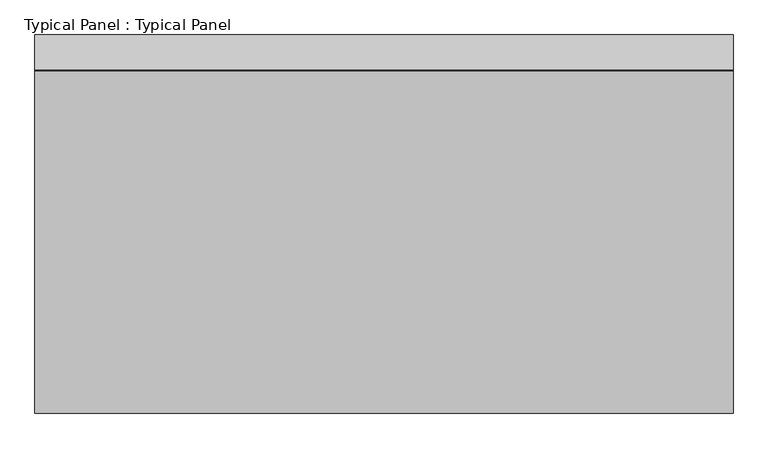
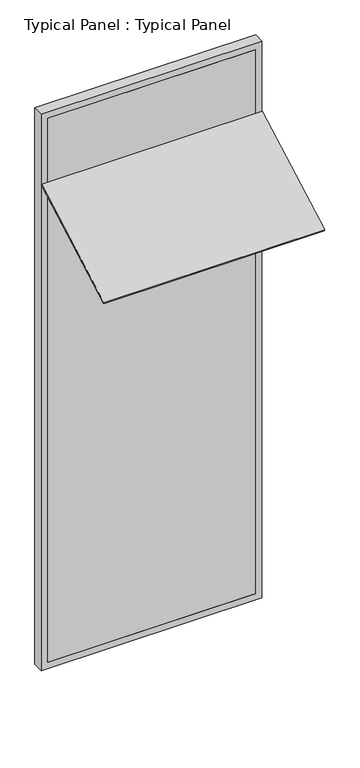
"""IFC4 building model written with IfcOpenShell, lengths in millimetres: plate geometry, Typical Panel : Typical Panel."""

import ifcopenshell
import ifcopenshell.guid

model = None  # the IFC model being written
_history = None  # IfcOwnerHistory: only IFC2X3 demands one
_inside = {}  # id of a spatial element -> (the spatial element, [elements in it])
_under = {}  # id of a project, library or spatial element -> (it, [spatial elements below it])
_declared = {}  # id of a project -> (the project, [libraries it declares])
_typed = {}  # id of a type object -> (the type object, [elements of that type])
_made_of = {}  # id of a material, layer set ... -> (it, [elements and type objects made of it])


def new_model(schema):
    """Start an empty IFC model of exactly this schema.

    Asked for "IFC4X3", IfcOpenShell would pick the latest addendum, in which some entities
    have other attributes; the version numbers below select the first issue.
    IFC2X3 requires an IfcOwnerHistory on every rooted entity: one is made here for all.
    """
    global model, _history
    if schema == "IFC4X3":
        model = ifcopenshell.file(schema_version=(4, 3, 0, 0))
    else:
        model = ifcopenshell.file(schema=schema)
    _inside.clear()
    _under.clear()
    _declared.clear()
    _typed.clear()
    _made_of.clear()
    _history = None
    if model.schema == "IFC2X3":
        org = make("IfcOrganization", Name="unknown")
        user = make(
            "IfcPersonAndOrganization",
            ThePerson=make("IfcPerson", FamilyName="unknown"),
            TheOrganization=org,
        )
        app = make(
            "IfcApplication",
            ApplicationDeveloper=org,
            Version="unknown",
            ApplicationFullName="unknown",
            ApplicationIdentifier="unknown",
        )
        _history = make(
            "IfcOwnerHistory",
            OwningUser=user,
            OwningApplication=app,
            ChangeAction="ADDED",
            CreationDate=0,
        )
    return model


def make(cls, **values):
    """One entity of the class cls with the attributes given. An attribute that is None is left unset."""
    return model.create_entity(
        cls, **{name: value for name, value in values.items() if value is not None}
    )


def rooted(cls, **values):
    """An entity with a GlobalId (a new one), such as an element, a storey or a relation."""
    return make(cls, GlobalId=ifcopenshell.guid.new(), OwnerHistory=_history, **values)


def si_unit(unit_type, name, prefix=None):
    """IfcSIUnit, for example si_unit("LENGTHUNIT", "METRE", prefix="MILLI")."""
    return make("IfcSIUnit", UnitType=unit_type, Prefix=prefix, Name=name)


def assignment(units):
    """IfcUnitAssignment: the units of a project."""
    return None if units is None else make("IfcUnitAssignment", Units=units)


def point(xyz):
    """IfcCartesianPoint."""
    return None if xyz is None else make("IfcCartesianPoint", Coordinates=xyz)


def direction(xyz):
    """IfcDirection."""
    return None if xyz is None else make("IfcDirection", DirectionRatios=xyz)


def frame(location, z_axis=None, x_axis=None):
    """IfcAxis2Placement3D, a coordinate frame: its origin and axes. An axis left out is left unset."""
    return make(
        "IfcAxis2Placement3D",
        Location=point(location),
        Axis=direction(z_axis),
        RefDirection=direction(x_axis),
    )


def origin():
    """The frame at (0, 0, 0) with its axes left unset."""
    return frame((0.0, 0.0, 0.0))


def place(relative_to, where):
    """IfcLocalPlacement: puts the frame where relative to a parent placement (None: the world)."""
    return make(
        "IfcLocalPlacement", PlacementRelTo=relative_to, RelativePlacement=where
    )


def context(
    kind, dimensions, precision=None, world=None, true_north=None, identifier=None
):
    """IfcGeometricRepresentationContext, for example the 3D "Model" context."""
    return make(
        "IfcGeometricRepresentationContext",
        ContextIdentifier=identifier,
        ContextType=kind,
        CoordinateSpaceDimension=dimensions,
        Precision=precision,
        WorldCoordinateSystem=world,
        TrueNorth=true_north,
    )


def project(units=None, contexts=None):
    """IfcProject with its units and contexts."""
    return rooted(
        "IfcProject",
        Name="project",
        RepresentationContexts=contexts,
        UnitsInContext=assignment(units),
    )


def spatial(cls, under=None, at=None, **own):
    """A site, building, storey or space (cls), placed at a placement, below another one or the project."""
    s = rooted(cls, ObjectPlacement=at, **own)
    if under is not None:
        _under.setdefault(under.id(), (under, []))[1].append(s)
    return s


def polyline(points):
    """IfcPolyline through the points."""
    return make("IfcPolyline", Points=[point(p) for p in points])


def outline(outer, holes=None, kind="AREA"):
    """IfcArbitraryClosedProfileDef: a profile drawn as a closed curve; with holes, ...WithVoids."""
    if holes is None:
        return make("IfcArbitraryClosedProfileDef", ProfileType=kind, OuterCurve=outer)
    return make(
        "IfcArbitraryProfileDefWithVoids",
        ProfileType=kind,
        OuterCurve=outer,
        InnerCurves=holes,
    )


def extrude(swept, where, along, depth):
    """IfcExtrudedAreaSolid: the profile swept, set in the frame where, extruded along a direction by depth."""
    return make(
        "IfcExtrudedAreaSolid",
        SweptArea=swept,
        Position=where,
        ExtrudedDirection=direction(along),
        Depth=depth,
    )


def shape(context_of_items, identifier, shape_type, items):
    """IfcShapeRepresentation: the items that make up one representation, for example the "Body"."""
    return make(
        "IfcShapeRepresentation",
        ContextOfItems=context_of_items,
        RepresentationIdentifier=identifier,
        RepresentationType=shape_type,
        Items=items,
    )


def source(mapping_origin, context_of_items, identifier, shape_type, items):
    """IfcRepresentationMap: a shape defined once, which mapped items show again and again."""
    return make(
        "IfcRepresentationMap",
        MappingOrigin=mapping_origin,
        MappedRepresentation=shape(context_of_items, identifier, shape_type, items),
    )


def transform(
    local_origin,
    x_axis=None,
    y_axis=None,
    z_axis=None,
    scale=None,
    scale2=None,
    scale3=None,
    uniform=True,
):
    """IfcCartesianTransformationOperator3D, or its non-uniform kind. x_axis, y_axis, z_axis: its Axis1, 2, 3."""
    if uniform:
        return make(
            "IfcCartesianTransformationOperator3D",
            Axis1=direction(x_axis),
            Axis2=direction(y_axis),
            LocalOrigin=point(local_origin),
            Scale=scale,
            Axis3=direction(z_axis),
        )
    return make(
        "IfcCartesianTransformationOperator3DnonUniform",
        Axis1=direction(x_axis),
        Axis2=direction(y_axis),
        LocalOrigin=point(local_origin),
        Scale=scale,
        Axis3=direction(z_axis),
        Scale2=scale2,
        Scale3=scale3,
    )


def mapped(mapping_source, mapping_target):
    """IfcMappedItem: shows the shape of a source again, moved by a transform."""
    return make(
        "IfcMappedItem", MappingSource=mapping_source, MappingTarget=mapping_target
    )


def made_of(thing, what):
    """Note that an element or type object is made of a material, layer set ...; save() writes the relation."""
    if what is not None:
        _made_of.setdefault(what.id(), (what, []))[1].append(thing)
    return thing


def element(
    cls,
    number,
    at=None,
    inside=None,
    cuts=None,
    type_object=None,
    material=None,
    context=None,
    identifier="Body",
    shape_type=None,
    held_by="IfcProductDefinitionShape",
    body=None,
    shapes=None,
    **own,
):
    """One element of the class cls, such as IfcWall. Its Tag is "e" and its number.

    at: its placement. inside: the storey or other place that contains it. cuts: it is an
    opening in that element (IfcRelVoidsElement). A single representation is given by context,
    identifier, shape_type and body (its items); several are given by shapes. held_by: the class
    of the entity that holds the representations. save() writes the other relations.
    """
    e = rooted(cls, Tag="e%d" % number, ObjectPlacement=at, **own)
    if body is not None:
        shapes = [shape(context, identifier, shape_type, body)]
    if shapes is not None:
        e.Representation = make(held_by, Representations=shapes)
    if inside is not None:
        _inside.setdefault(inside.id(), (inside, []))[1].append(e)
    if cuts is not None:
        rooted(
            "IfcRelVoidsElement", RelatingBuildingElement=cuts, RelatedOpeningElement=e
        )
    if type_object is not None:
        _typed.setdefault(type_object.id(), (type_object, []))[1].append(e)
    return made_of(e, material)


def aggregate(whole, parts):
    """IfcRelAggregates: a whole, such as a stair, and the parts it consists of."""
    return rooted("IfcRelAggregates", RelatingObject=whole, RelatedObjects=parts)


def save(model, path):
    """Write the relations noted so far, then the file.

    IfcRelAggregates (storeys below a building ...), IfcRelContainedInSpatialStructure (elements
    in a storey), IfcRelDefinesByType, IfcRelAssociatesMaterial and IfcRelDeclares: one each for
    every whole, place, type object, material and project.
    """
    for whole, parts in _under.values():
        aggregate(whole, parts)
    for where, things in _inside.values():
        rooted(
            "IfcRelContainedInSpatialStructure",
            RelatedElements=things,
            RelatingStructure=where,
        )
    for kind, things in _typed.values():
        rooted("IfcRelDefinesByType", RelatedObjects=things, RelatingType=kind)
    for what, things in _made_of.values():
        rooted("IfcRelAssociatesMaterial", RelatedObjects=things, RelatingMaterial=what)
    for by, libraries in _declared.values():
        rooted("IfcRelDeclares", RelatingContext=by, RelatedDefinitions=libraries)
    model.write(path)


def typical_panel_typical_panel_e094c6e8(model_context):
    return source(origin(), model_context, "Body", "SweptSolid", [
        extrude(outline(polyline([(0.0, -840.0), (0.0, 0.0), (1500.0, 0.0), (1500.0, -840.0), (0.0, -840.0)])), frame((750.0, -734.8324578, 3084.0137219), z_axis=(0.0, -0.4848096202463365, 0.8746197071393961), x_axis=(-1.0, 0.0, 0.0)), (0.0, 0.0, 1.0), 10.0),
        extrude(outline(polyline([(0.0, -750.0), (0.0, 750.0), (4000.0, 750.0), (4000.0, -750.0), (0.0, -750.0)]), holes=[polyline([(45.0, 705.0), (45.0, -705.0), (3955.0, -705.0), (3955.0, 705.0), (45.0, 705.0)])]), frame((0.0, -1.5797986, 0.0), z_axis=(0.0, 1.0, 0.0), x_axis=(0.0, 0.0, 1.0)), (0.0, 0.0, 1.0), 75.0),
        extrude(outline(polyline([(705.0, -1.5797986), (-705.0, -1.5797986), (-705.0, 13.4202014), (705.0, 13.4202014), (705.0, -1.5797986)])), frame((0.0, 0.0, 45.0), z_axis=(0.0, 0.0, 1.0), x_axis=(1.0, 0.0, 0.0)), (0.0, 0.0, 1.0), 3910.0),
    ])


if __name__ == "__main__":
    model = new_model("IFC4")
    model_context = context("Model", 3, world=origin())
    ifc_project = project(units=[si_unit("LENGTHUNIT", "METRE", prefix="MILLI")], contexts=[model_context])
    site = spatial("IfcSite", under=ifc_project)
    building = spatial("IfcBuilding", under=site)
    placement = place(None, origin())
    typical_panel_typical_panel_shape = typical_panel_typical_panel_e094c6e8(model_context)
    element("IfcPlate", 1, ObjectType="Typical Panel : Typical Panel", at=placement, inside=building, context=model_context, shape_type="MappedRepresentation", body=[
        mapped(typical_panel_typical_panel_shape, transform((0.0, 0.0, 0.0), x_axis=(1.0, 0.0, 0.0), y_axis=(0.0, 1.0, 0.0), z_axis=(0.0, 0.0, 1.0))),
    ])
    save(model, "model.ifc")
